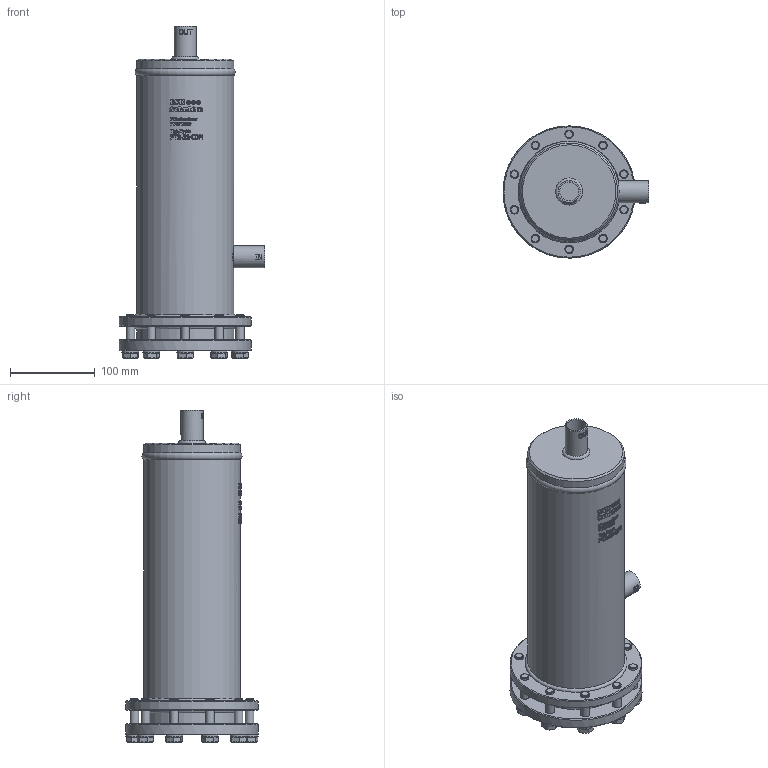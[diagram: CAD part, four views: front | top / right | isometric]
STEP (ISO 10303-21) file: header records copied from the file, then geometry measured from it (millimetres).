
FILE_DESCRIPTION(/* description */ (''),/* implementation_level */ '2;1');
FILE_NAME(/* name */ 'P:\FT\FT2-22-CDM\FT2-22-CDM.stp',/* time_stamp */ '2017-10-05T08:21:30+02:00',/* author */ ('neufeld'),/* organization */ (''),/* preprocessor_version */ 'ST-DEVELOPER v16.1',/* originating_system */ 'Autodesk Inventor 2016',/* authorisation */ '');
FILE_SCHEMA (('AUTOMOTIVE_DESIGN { 1 0 10303 214 3 1 1 }'));
Length unit declared in the file: millimetre
Products named in the file (2): FT2-22-CDM; FT2-22-CDM_1
Assembly tree (1 placements, depth 2):
  FT2-22-CDM_1
    FT2-22-CDM
Bounding box: 172.15 x 156 x 391.9 mm (x, y, z)
Volume: 3815565.9 mm3; surface area: 213772.4 mm2
Topology: 1 solids, 1 shells, 1259 faces, 3274 edges, 2151 vertices
Faces by surface type: plane 723, bspline 284, cylinder 163, cone 85, torus 4
Full cylindrical faces by diameter (mm): 9.188 x10, 10 x20, 10.5 x10, 11 x10, 15.4 x10, 20 x10, 22.4 x2, 26 x2, 114.3 x3, 115 x1, 115.2 x1, 156 x2
Entity records: 43321 total; most frequent: CARTESIAN_POINT 14524, ORIENTED_EDGE 6220, DIRECTION 5378, EDGE_CURVE 3108, VERTEX_POINT 2100, AXIS2_PLACEMENT_3D 1983, EDGE_LOOP 1526, LINE 1412
